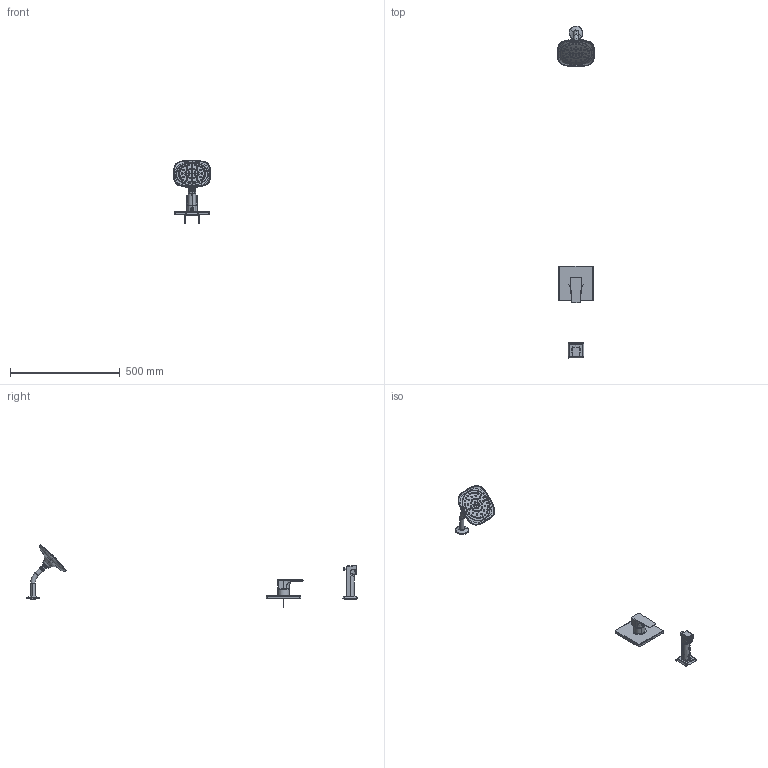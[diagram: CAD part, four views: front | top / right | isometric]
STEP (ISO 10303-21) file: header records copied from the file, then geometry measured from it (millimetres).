
FILE_DESCRIPTION (( 'STEP AP214' ), '1' );
FILE_NAME ('4992TRM.STEP', '2025-01-02T03:40:56', ( '' ), ( '' ), 'SwSTEP 2.0', 'SolidWorks 2023', '' );
FILE_SCHEMA (( 'AUTOMOTIVE_DESIGN' ));
Length unit declared in the file: metre
Products named in the file (1): 4992TRM
Bounding box: 169.76 x 1514.79 x 287.98 mm (x, y, z)
Surface area: 283996.3 mm2 (no closed solid volume)
Topology: 0 solids, 213 shells, 904 faces, 3314 edges, 2570 vertices
Faces by surface type: plane 268, cylinder 213, cone 178, bspline 177, torus 68
Entity records: 94844 total; most frequent: CARTESIAN_POINT 70137, ORIENTED_EDGE 4631, DIRECTION 4325, EDGE_CURVE 3308, VERTEX_POINT 2570, AXIS2_PLACEMENT_3D 1668, B_SPLINE_CURVE_WITH_KNOTS 1204, EDGE_LOOP 1081
